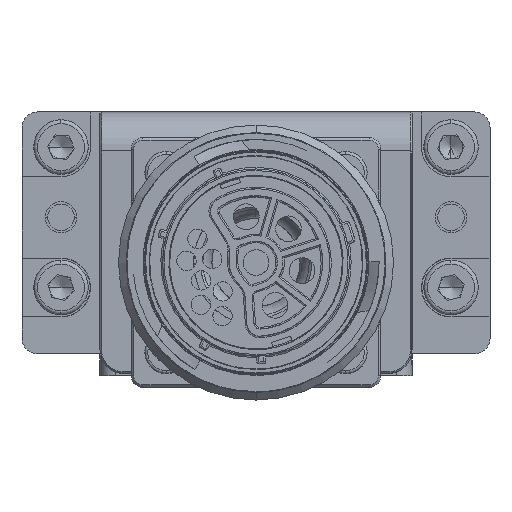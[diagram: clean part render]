
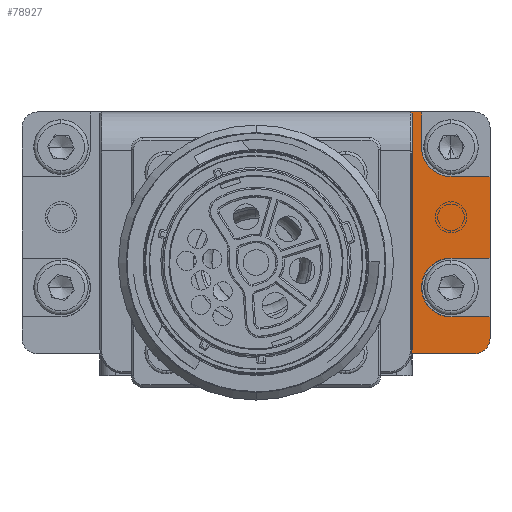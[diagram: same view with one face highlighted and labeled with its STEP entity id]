
A CAD part, front view. The second image highlights one B-rep face of the part: STEP entity #78927.
In plain terms, the highlighted planar face has unit normal (0, -1, 0).
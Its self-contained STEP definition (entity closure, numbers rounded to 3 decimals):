
#934 = LINE ( 'NONE', #29479, #67178 ) ;
#1530 = AXIS2_PLACEMENT_3D ( 'NONE', #64394, #26221, #70843 ) ;
#1550 = ORIENTED_EDGE ( 'NONE', *, *, #50183, .F. ) ;
#2755 = CARTESIAN_POINT ( 'NONE',  ( 17., 12.25, -30.5 ) ) ;
#3009 = CARTESIAN_POINT ( 'NONE',  ( 21.225, 12.25, -4.5 ) ) ;
#3092 = VECTOR ( 'NONE', #67760, 1000. ) ;
#3726 = EDGE_CURVE ( 'NONE', #72408, #13372, #22036, .T. ) ;
#5026 = CARTESIAN_POINT ( 'NONE',  ( 30., 12.25, -29. ) ) ;
#5154 = CIRCLE ( 'NONE', #73906, 3.775 ) ;
#5600 = DIRECTION ( 'NONE',  ( -1., 0., 0. ) ) ;
#5873 = ORIENTED_EDGE ( 'NONE', *, *, #52541, .T. ) ;
#6671 = VERTEX_POINT ( 'NONE', #70873 ) ;
#6951 = VERTEX_POINT ( 'NONE', #43267 ) ;
#7122 = CIRCLE ( 'NONE', #54216, 3.775 ) ;
#7601 = EDGE_CURVE ( 'NONE', #23200, #62471, #66429, .T. ) ;
#8159 = EDGE_CURVE ( 'NONE', #51438, #13386, #60159, .T. ) ;
#9336 = DIRECTION ( 'NONE',  ( 1., 0., 0. ) ) ;
#9623 = EDGE_LOOP ( 'NONE', ( #45721, #64470, #81290, #52101, #38230, #16173, #1550, #18508, #20316, #58009, #53855, #40497, #37551, #29874, #58460, #5873, #44854 ) ) ;
#10110 = LINE ( 'NONE', #27666, #25247 ) ;
#10636 = AXIS2_PLACEMENT_3D ( 'NONE', #53503, #15297, #59908 ) ;
#10683 = CARTESIAN_POINT ( 'NONE',  ( 20., 12.25, -0.2 ) ) ;
#10761 = DIRECTION ( 'NONE',  ( 0., -1., 0. ) ) ;
#11410 = CARTESIAN_POINT ( 'NONE',  ( 20., 12.25, -0.2 ) ) ;
#11902 = DIRECTION ( 'NONE',  ( 0., 1., 0. ) ) ;
#13227 = CIRCLE ( 'NONE', #1530, 2. ) ;
#13372 = VERTEX_POINT ( 'NONE', #14004 ) ;
#13386 = VERTEX_POINT ( 'NONE', #14293 ) ;
#14004 = CARTESIAN_POINT ( 'NONE',  ( 30., 12.25, -26.25 ) ) ;
#14293 = CARTESIAN_POINT ( 'NONE',  ( 21.225, 12.25, 0. ) ) ;
#15297 = DIRECTION ( 'NONE',  ( 0., -1., 0. ) ) ;
#15404 = CARTESIAN_POINT ( 'NONE',  ( 27.5, 12.25, -26.25 ) ) ;
#15601 = DIRECTION ( 'NONE',  ( 1., 0., 0. ) ) ;
#15735 = CARTESIAN_POINT ( 'NONE',  ( 25., 12.25, -22.5 ) ) ;
#15930 = VERTEX_POINT ( 'NONE', #61285 ) ;
#16028 = DIRECTION ( 'NONE',  ( 0., -1., 0. ) ) ;
#16129 = DIRECTION ( 'NONE',  ( 0., 0., -1. ) ) ;
#16173 = ORIENTED_EDGE ( 'NONE', *, *, #34663, .F. ) ;
#18508 = ORIENTED_EDGE ( 'NONE', *, *, #22730, .F. ) ;
#19154 = CARTESIAN_POINT ( 'NONE',  ( 25., 12.25, -8.275 ) ) ;
#20316 = ORIENTED_EDGE ( 'NONE', *, *, #71392, .F. ) ;
#20319 = CARTESIAN_POINT ( 'NONE',  ( 24.869, 12.25, -8.275 ) ) ;
#20597 = DIRECTION ( 'NONE',  ( -1., 0., 0. ) ) ;
#20982 = DIRECTION ( 'NONE',  ( -1., 0., 0. ) ) ;
#21763 = LINE ( 'NONE', #58918, #49692 ) ;
#22036 = LINE ( 'NONE', #15404, #22129 ) ;
#22129 = VECTOR ( 'NONE', #15601, 1000. ) ;
#22730 = EDGE_CURVE ( 'NONE', #6671, #60592, #5154, .T. ) ;
#23200 = VERTEX_POINT ( 'NONE', #54613 ) ;
#25247 = VECTOR ( 'NONE', #78789, 1000. ) ;
#26221 = DIRECTION ( 'NONE',  ( 0., -1., 0. ) ) ;
#27666 = CARTESIAN_POINT ( 'NONE',  ( 30., 12.25, -15.5 ) ) ;
#28584 = EDGE_CURVE ( 'NONE', #23200, #15930, #10110, .T. ) ;
#28726 = CARTESIAN_POINT ( 'NONE',  ( 20., 12.25, -30.5 ) ) ;
#28917 = LINE ( 'NONE', #82735, #30937 ) ;
#29479 = CARTESIAN_POINT ( 'NONE',  ( 20., 12.25, -15.5 ) ) ;
#29874 = ORIENTED_EDGE ( 'NONE', *, *, #8159, .F. ) ;
#30512 = CARTESIAN_POINT ( 'NONE',  ( 19.8, 12.25, 0. ) ) ;
#30937 = VECTOR ( 'NONE', #5600, 1000. ) ;
#33461 = VECTOR ( 'NONE', #20982, 1000. ) ;
#33533 = CARTESIAN_POINT ( 'NONE',  ( 19.979, 12.25, -31. ) ) ;
#34663 = EDGE_CURVE ( 'NONE', #59609, #72408, #7122, .T. ) ;
#34999 = DIRECTION ( 'NONE',  ( 1., 0., 0. ) ) ;
#35917 = DIRECTION ( 'NONE',  ( 0., -1., 0. ) ) ;
#37551 = ORIENTED_EDGE ( 'NONE', *, *, #42453, .T. ) ;
#38230 = ORIENTED_EDGE ( 'NONE', *, *, #3726, .F. ) ;
#38657 = EDGE_CURVE ( 'NONE', #62488, #6951, #61943, .T. ) ;
#39371 = LINE ( 'NONE', #42392, #3092 ) ;
#39408 = CIRCLE ( 'NONE', #10636, 3.775 ) ;
#40497 = ORIENTED_EDGE ( 'NONE', *, *, #45132, .T. ) ;
#41713 = CARTESIAN_POINT ( 'NONE',  ( 24.869, 12.25, -31. ) ) ;
#42392 = CARTESIAN_POINT ( 'NONE',  ( 30., 12.25, -15.5 ) ) ;
#42453 = EDGE_CURVE ( 'NONE', #50279, #13386, #21763, .T. ) ;
#43075 = EDGE_CURVE ( 'NONE', #48988, #54453, #70593, .T. ) ;
#43267 = CARTESIAN_POINT ( 'NONE',  ( 28., 12.25, -31. ) ) ;
#44688 = EDGE_CURVE ( 'NONE', #62488, #48988, #50418, .T. ) ;
#44854 = ORIENTED_EDGE ( 'NONE', *, *, #43075, .F. ) ;
#45042 = VECTOR ( 'NONE', #34999, 1000. ) ;
#45132 = EDGE_CURVE ( 'NONE', #62471, #50279, #81460, .T. ) ;
#45721 = ORIENTED_EDGE ( 'NONE', *, *, #44688, .F. ) ;
#47699 = DIRECTION ( 'NONE',  ( 0., -1., 0. ) ) ;
#48988 = VERTEX_POINT ( 'NONE', #49631 ) ;
#49496 = DIRECTION ( 'NONE',  ( 1., 0., 0. ) ) ;
#49631 = CARTESIAN_POINT ( 'NONE',  ( 19.958, 12.25, -31. ) ) ;
#49692 = VECTOR ( 'NONE', #65337, 1000. ) ;
#50183 = EDGE_CURVE ( 'NONE', #60592, #59609, #39408, .T. ) ;
#50211 = CARTESIAN_POINT ( 'NONE',  ( 25., 12.25, -4.5 ) ) ;
#50279 = VERTEX_POINT ( 'NONE', #3009 ) ;
#50418 = LINE ( 'NONE', #33533, #33461 ) ;
#51438 = VERTEX_POINT ( 'NONE', #75409 ) ;
#52101 = ORIENTED_EDGE ( 'NONE', *, *, #55305, .F. ) ;
#52525 = B_SPLINE_CURVE_WITH_KNOTS ( 'NONE', 1,
 ( #11410, #30512 ),
 .UNSPECIFIED., .F., .F.,
 ( 2, 2 ),
 ( 0., 1. ),
 .UNSPECIFIED. ) ;
#52541 = EDGE_CURVE ( 'NONE', #63645, #54453, #934, .T. ) ;
#53137 = CARTESIAN_POINT ( 'NONE',  ( 25., 12.25, -18.725 ) ) ;
#53503 = CARTESIAN_POINT ( 'NONE',  ( 25., 12.25, -22.5 ) ) ;
#53855 = ORIENTED_EDGE ( 'NONE', *, *, #7601, .T. ) ;
#54216 = AXIS2_PLACEMENT_3D ( 'NONE', #74137, #35917, #80662 ) ;
#54453 = VERTEX_POINT ( 'NONE', #28726 ) ;
#54613 = CARTESIAN_POINT ( 'NONE',  ( 30., 12.25, -8.275 ) ) ;
#54822 = DIRECTION ( 'NONE',  ( 0., 0., -1. ) ) ;
#55305 = EDGE_CURVE ( 'NONE', #13372, #80624, #39371, .T. ) ;
#56597 = DIRECTION ( 'NONE',  ( 0., 0., -1. ) ) ;
#58009 = ORIENTED_EDGE ( 'NONE', *, *, #28584, .F. ) ;
#58053 = AXIS2_PLACEMENT_3D ( 'NONE', #50211, #11902, #56597 ) ;
#58460 = ORIENTED_EDGE ( 'NONE', *, *, #67622, .F. ) ;
#58918 = CARTESIAN_POINT ( 'NONE',  ( 21.225, 12.25, -15.5 ) ) ;
#59609 = VERTEX_POINT ( 'NONE', #65597 ) ;
#59837 = VECTOR ( 'NONE', #49496, 1000. ) ;
#59908 = DIRECTION ( 'NONE',  ( 0., 0., -1. ) ) ;
#60159 = LINE ( 'NONE', #62272, #59837 ) ;
#60592 = VERTEX_POINT ( 'NONE', #53137 ) ;
#61285 = CARTESIAN_POINT ( 'NONE',  ( 30., 12.25, -18.75 ) ) ;
#61883 = CARTESIAN_POINT ( 'NONE',  ( 30., 12.25, -31. ) ) ;
#61943 = LINE ( 'NONE', #41713, #45042 ) ;
#62272 = CARTESIAN_POINT ( 'NONE',  ( 0., 12.25, 0. ) ) ;
#62471 = VERTEX_POINT ( 'NONE', #19154 ) ;
#62488 = VERTEX_POINT ( 'NONE', #63751 ) ;
#63645 = VERTEX_POINT ( 'NONE', #10683 ) ;
#63751 = CARTESIAN_POINT ( 'NONE',  ( 20., 12.25, -31. ) ) ;
#64394 = CARTESIAN_POINT ( 'NONE',  ( 28., 12.25, -29. ) ) ;
#64470 = ORIENTED_EDGE ( 'NONE', *, *, #38657, .T. ) ;
#64887 = AXIS2_PLACEMENT_3D ( 'NONE', #2755, #47699, #9336 ) ;
#65337 = DIRECTION ( 'NONE',  ( 0., 0., 1. ) ) ;
#65597 = CARTESIAN_POINT ( 'NONE',  ( 25., 12.25, -26.275 ) ) ;
#66429 = LINE ( 'NONE', #20319, #67589 ) ;
#67178 = VECTOR ( 'NONE', #54822, 1000. ) ;
#67589 = VECTOR ( 'NONE', #20597, 1000. ) ;
#67622 = EDGE_CURVE ( 'NONE', #63645, #51438, #52525, .T. ) ;
#67760 = DIRECTION ( 'NONE',  ( 0., 0., -1. ) ) ;
#68313 = EDGE_CURVE ( 'NONE', #6951, #80624, #13227, .T. ) ;
#68365 = PLANE ( 'NONE',  #77360 ) ;
#70593 = CIRCLE ( 'NONE', #64887, 3. ) ;
#70843 = DIRECTION ( 'NONE',  ( 0., 0., 1. ) ) ;
#70873 = CARTESIAN_POINT ( 'NONE',  ( 25.434, 12.25, -18.75 ) ) ;
#71392 = EDGE_CURVE ( 'NONE', #15930, #6671, #28917, .T. ) ;
#72408 = VERTEX_POINT ( 'NONE', #73314 ) ;
#73314 = CARTESIAN_POINT ( 'NONE',  ( 25.434, 12.25, -26.25 ) ) ;
#73906 = AXIS2_PLACEMENT_3D ( 'NONE', #15735, #16028, #16129 ) ;
#74137 = CARTESIAN_POINT ( 'NONE',  ( 25., 12.25, -22.5 ) ) ;
#74795 = DIRECTION ( 'NONE',  ( 0., 0., 1. ) ) ;
#75409 = CARTESIAN_POINT ( 'NONE',  ( 19.8, 12.25, 0. ) ) ;
#77360 = AXIS2_PLACEMENT_3D ( 'NONE', #61883, #10761, #74795 ) ;
#77576 = FACE_OUTER_BOUND ( 'NONE', #9623, .T. ) ;
#78789 = DIRECTION ( 'NONE',  ( 0., 0., -1. ) ) ;
#78927 = ADVANCED_FACE ( 'NONE', ( #77576 ), #68365, .T. ) ;
#80624 = VERTEX_POINT ( 'NONE', #5026 ) ;
#80662 = DIRECTION ( 'NONE',  ( 0., 0., -1. ) ) ;
#81290 = ORIENTED_EDGE ( 'NONE', *, *, #68313, .T. ) ;
#81460 = CIRCLE ( 'NONE', #58053, 3.775 ) ;
#82735 = CARTESIAN_POINT ( 'NONE',  ( 27.5, 12.25, -18.75 ) ) ;
